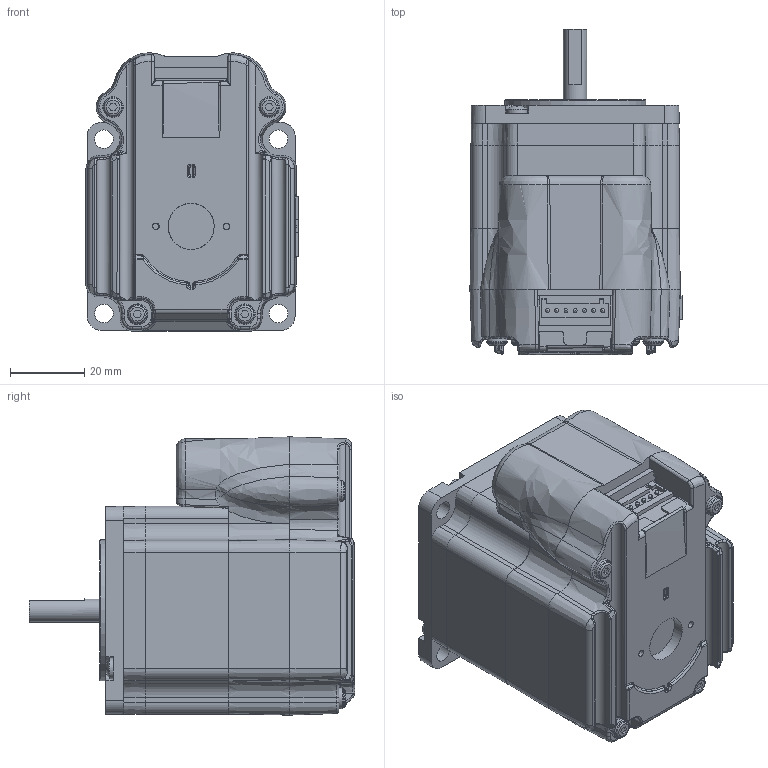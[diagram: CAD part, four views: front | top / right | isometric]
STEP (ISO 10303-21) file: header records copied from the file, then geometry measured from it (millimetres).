
FILE_DESCRIPTION(('MDrive23Plus, Single Stack, P1 (IO PWR, P) and P2 (RD or RL 10-Pin)'),'1');
FILE_NAME('MDrive23Plus, Single Stack, P1 (IO PWR, P) and P2 (RD or RL 10-Pin).stp','2009-05-11T17:44:06',('P. Bordua'),('Intelligent Motion Systems, Inc.'),'Spatial Interop R18','Kubotek KeyCreator V8.0.1 (11344)','KC');
FILE_SCHEMA(('automotive_design'));
Length unit declared in the file: inch
Products named in the file (2): MDrive23Plus,  Single Stack, P1 (IO PWR, P)  and  P2 (RD or RL 10-Pin)[3]
Bounding box: 57.34 x 87.91 x 75.2 mm (x, y, z)
Volume: 220097.2 mm3; surface area: 32953.5 mm2
Topology: 2 solids, 3 shells, 818 faces, 2095 edges, 1304 vertices
Faces by surface type: plane 373, bspline 231, cylinder 124, torus 38, cone 27, sphere 25
Full cylindrical faces by diameter (mm): 1.041 x7, 3.175 x2, 5 x4, 5.563 x4, 5.588 x4, 6.35 x1, 8.001 x1, 10.16 x1, 12.446 x1, 38.1 x1
Entity records: 66478 total; most frequent: CARTESIAN_POINT 23612, PRESENTATION_STYLE_ASSIGNMENT 4884, COLOUR_RGB 4884, STYLED_ITEM 4064, ORIENTED_EDGE 4008, CURVE_STYLE 2824, DRAUGHTING_PRE_DEFINED_CURVE_FONT 2824, DIRECTION 2411
